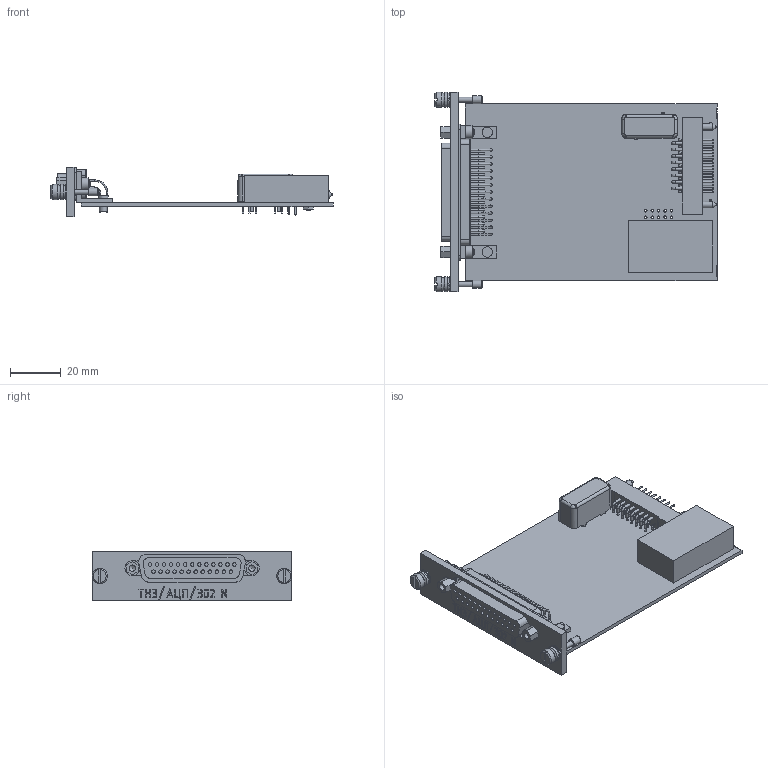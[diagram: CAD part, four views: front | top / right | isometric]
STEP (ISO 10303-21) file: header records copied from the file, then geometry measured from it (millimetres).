
FILE_DESCRIPTION(('STEP AP203'), '1');
FILE_NAME('帎迗.411135.003 沓劌錪 眝3_氈柉302', '', ('UNSPECIFIED'), ('UNSPECIFIED'), 'C3D Converter', 'C3D Toolkit', '');
FILE_SCHEMA(('CONFIG_CONTROL_DESIGN'));
Length unit declared in the file: millimetre
Products named in the file (1): КМНТ.411135.003
Bounding box: 110.93 x 78.5 x 19.6 mm (x, y, z)
Volume: 30222 mm3; surface area: 26430.8 mm2
Topology: 3 solids, 3 shells, 1477 faces, 3829 edges, 2519 vertices
Faces by surface type: cylinder 777, plane 592, torus 48, sphere 36, cone 12, bspline 12
Full cylindrical faces by diameter (mm): 0.6 x118, 0.76 x7, 0.8 x17, 1 x83, 1.194 x1, 1.23 x2, 1.4 x25, 1.6 x2, 2 x2, 2.459 x4, 2.49 x2, 3 x6, 3.1 x2, 3.2 x5, 3.4 x1, 4 x2, 5 x2, 6 x6
Entity records: 60495 total; most frequent: CARTESIAN_POINT 12704, DIRECTION 7804, ORIENTED_EDGE 6840, EDGE_CURVE 3420, AXIS2_PLACEMENT_3D 3089, VERTEX_POINT 2500, EDGE_LOOP 2160, FACE_BOUND 1680
